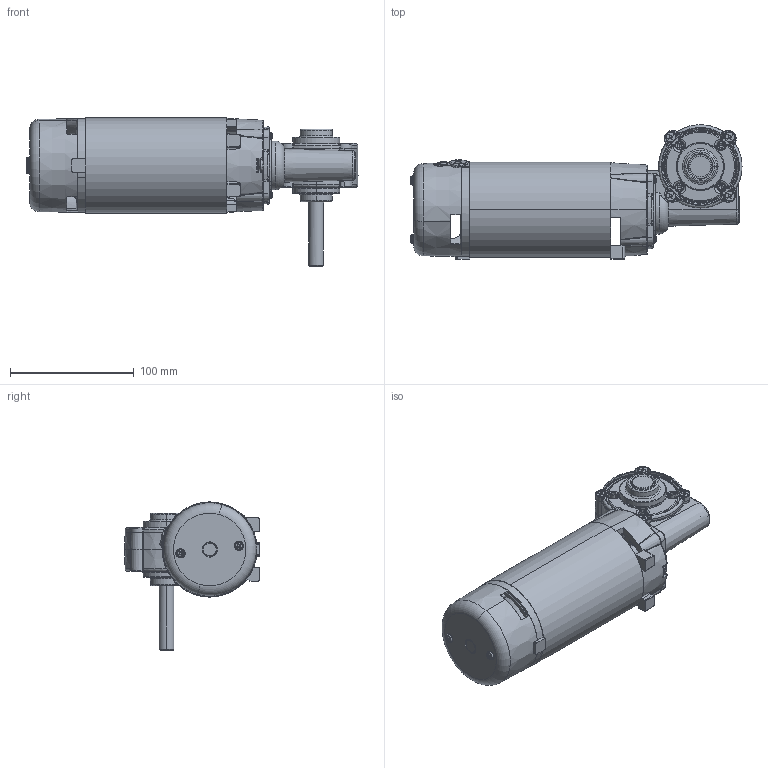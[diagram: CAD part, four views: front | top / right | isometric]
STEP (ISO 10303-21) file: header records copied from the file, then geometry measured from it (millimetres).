
FILE_DESCRIPTION (( 'STEP AP214' ), '1' );
FILE_NAME ('PM60-M.STEP', '2021-10-07T14:43:14', ( '' ), ( '' ), 'SwSTEP 2.0', 'SolidWorks 2020', '' );
FILE_SCHEMA (( 'AUTOMOTIVE_DESIGN' ));
Length unit declared in the file: millimetre
Products named in the file (1): PM60-M
Bounding box: 268.5 x 108.65 x 119.9 mm (x, y, z)
Surface area: 174718.8 mm2 (no closed solid volume)
Topology: 0 solids, 61 shells, 2186 faces, 5796 edges, 3607 vertices
Faces by surface type: bspline 532, cone 472, plane 397, cylinder 363, torus 315, sphere 107
Entity records: 136362 total; most frequent: CARTESIAN_POINT 63018, ORIENTED_EDGE 10636, DIRECTION 9242, EDGE_CURVE 5606, AXIS2_PLACEMENT_3D 3944, VERTEX_POINT 3553, EDGE_LOOP 2328, CIRCLE 2289
